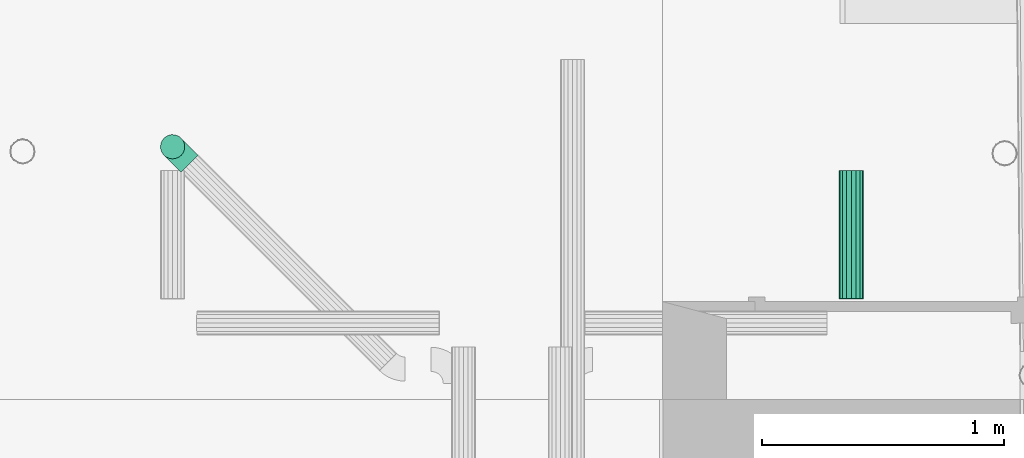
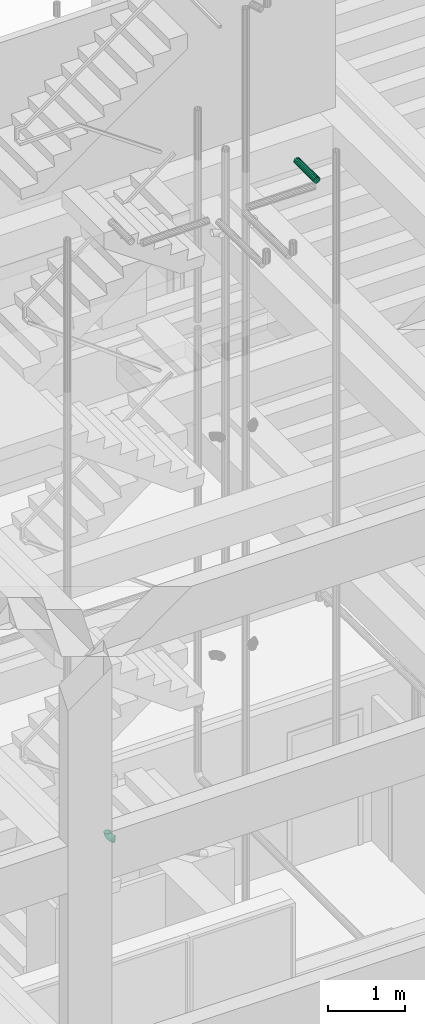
# One storey, part 74 of 106: 1 flow fitting, 1 flow segment.
"""IFC2X3 building model written with IfcOpenShell, lengths in metres."""

from ifc_helpers import new_model, entity, si_unit, converted_unit, derived_unit, money_unit, direction, frame, origin_with_axes, place, context, subcontext, project, spatial, open_shell, faceted_brep, surface_model, material, type_object, element, save


model = new_model("IFC2X3")

# Units and contexts
model_context = context("Model", 3, precision=1e-05, world=origin_with_axes(), true_north=direction((0.0, 1.0)))
body_context = subcontext(model_context, "Body", "Model", "MODEL_VIEW", scale=1.0)
ifc_project = project(units=[si_unit("LENGTHUNIT", "METRE"), si_unit("AREAUNIT", "SQUARE_METRE"), si_unit("VOLUMEUNIT", "CUBIC_METRE"), si_unit("ABSORBEDDOSEUNIT", "GRAY"), si_unit("AMOUNTOFSUBSTANCEUNIT", "MOLE"), si_unit("DOSEEQUIVALENTUNIT", "SIEVERT"), si_unit("ELECTRICCAPACITANCEUNIT", "FARAD"), si_unit("ELECTRICCHARGEUNIT", "COULOMB"), si_unit("ELECTRICCONDUCTANCEUNIT", "SIEMENS"), si_unit("ELECTRICCURRENTUNIT", "AMPERE"), si_unit("ELECTRICRESISTANCEUNIT", "OHM"), si_unit("ELECTRICVOLTAGEUNIT", "VOLT"), si_unit("ENERGYUNIT", "JOULE"), si_unit("FORCEUNIT", "NEWTON"), si_unit("FREQUENCYUNIT", "HERTZ"), si_unit("ILLUMINANCEUNIT", "LUX"), si_unit("INDUCTANCEUNIT", "HENRY"), si_unit("LUMINOUSFLUXUNIT", "LUMEN"), si_unit("LUMINOUSINTENSITYUNIT", "CANDELA"), si_unit("MAGNETICFLUXDENSITYUNIT", "TESLA"), si_unit("MAGNETICFLUXUNIT", "WEBER"), si_unit("MASSUNIT", "GRAM"), converted_unit("PLANEANGLEUNIT", "degree", entity("IfcReal", 0.0174532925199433), si_unit("PLANEANGLEUNIT", "RADIAN"), dimensions=[0, 0, 0, 0, 0, 0, 0]), si_unit("POWERUNIT", "WATT"), si_unit("PRESSUREUNIT", "PASCAL"), si_unit("RADIOACTIVITYUNIT", "BECQUEREL"), si_unit("SOLIDANGLEUNIT", "STERADIAN"), si_unit("THERMODYNAMICTEMPERATUREUNIT", "KELVIN"), si_unit("TIMEUNIT", "SECOND"), derived_unit("ACCELERATIONUNIT", [(si_unit("LENGTHUNIT", "METRE"), 1), (si_unit("TIMEUNIT", "SECOND"), -2)]), derived_unit("ANGULARVELOCITYUNIT", [(converted_unit("PLANEANGLEUNIT", "degree", entity("IfcReal", 0.0174532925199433), si_unit("PLANEANGLEUNIT", "RADIAN"), dimensions=[0, 0, 0, 0, 0, 0, 0]), 1), (si_unit("TIMEUNIT", "SECOND"), -1)]), derived_unit("CURVATUREUNIT", [(converted_unit("PLANEANGLEUNIT", "degree", entity("IfcReal", 0.0174532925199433), si_unit("PLANEANGLEUNIT", "RADIAN"), dimensions=[0, 0, 0, 0, 0, 0, 0]), 1), (si_unit("LENGTHUNIT", "METRE"), -1)]), derived_unit("DYNAMICVISCOSITYUNIT", [(si_unit("PRESSUREUNIT", "PASCAL"), 1), (si_unit("TIMEUNIT", "SECOND"), 1)]), derived_unit("HEATFLUXDENSITYUNIT", [(si_unit("POWERUNIT", "WATT"), 1), (si_unit("LENGTHUNIT", "METRE"), -2)]), derived_unit("HEATINGVALUEUNIT", [(si_unit("ENERGYUNIT", "JOULE"), 1), (si_unit("MASSUNIT", "GRAM"), -1)]), derived_unit("INTEGERCOUNTRATEUNIT", [(si_unit("TIMEUNIT", "SECOND"), -1)]), derived_unit("IONCONCENTRATIONUNIT", [(si_unit("MASSUNIT", "GRAM"), 1), (si_unit("VOLUMEUNIT", "CUBIC_METRE"), -1)]), derived_unit("ISOTHERMALMOISTURECAPACITYUNIT", [(si_unit("VOLUMEUNIT", "CUBIC_METRE"), 1), (si_unit("MASSUNIT", "GRAM"), -1)]), derived_unit("KINEMATICVISCOSITYUNIT", [(si_unit("AREAUNIT", "SQUARE_METRE"), 1), (si_unit("TIMEUNIT", "SECOND"), -1)]), derived_unit("LINEARFORCEUNIT", [(si_unit("FORCEUNIT", "NEWTON"), 1), (si_unit("LENGTHUNIT", "METRE"), -1)]), derived_unit("LINEARMOMENTUNIT", [(si_unit("FORCEUNIT", "NEWTON"), 1), (si_unit("LENGTHUNIT", "METRE"), -1)]), derived_unit("LINEARSTIFFNESSUNIT", [(si_unit("FORCEUNIT", "NEWTON"), 1), (si_unit("LENGTHUNIT", "METRE"), -1)]), derived_unit("LINEARVELOCITYUNIT", [(si_unit("LENGTHUNIT", "METRE"), 1), (si_unit("TIMEUNIT", "SECOND"), -1)]), derived_unit("LUMINOUSINTENSITYDISTRIBUTIONUNIT", [(si_unit("LUMINOUSINTENSITYUNIT", "CANDELA"), 1), (si_unit("LUMINOUSFLUXUNIT", "LUMEN"), -1)]), derived_unit("MASSDENSITYUNIT", [(si_unit("MASSUNIT", "GRAM"), 1), (si_unit("VOLUMEUNIT", "CUBIC_METRE"), -1)]), derived_unit("MASSFLOWRATEUNIT", [(si_unit("MASSUNIT", "GRAM"), 1), (si_unit("TIMEUNIT", "SECOND"), -1)]), derived_unit("MASSPERLENGTHUNIT", [(si_unit("MASSUNIT", "GRAM"), 1), (si_unit("LENGTHUNIT", "METRE"), -1)]), derived_unit("MODULUSOFELASTICITYUNIT", [(si_unit("FORCEUNIT", "NEWTON"), 1), (si_unit("AREAUNIT", "SQUARE_METRE"), -1)]), derived_unit("MODULUSOFLINEARSUBGRADEREACTIONUNIT", [(si_unit("FORCEUNIT", "NEWTON"), 1), (si_unit("LENGTHUNIT", "METRE"), -2)]), derived_unit("MODULUSOFROTATIONALSUBGRADEREACTIONUNIT", [(si_unit("FORCEUNIT", "NEWTON"), 1), (si_unit("LENGTHUNIT", "METRE"), 1)]), derived_unit("MODULUSOFSUBGRADEREACTIONUNIT", [(si_unit("FORCEUNIT", "NEWTON"), 1), (si_unit("VOLUMEUNIT", "CUBIC_METRE"), -1)]), derived_unit("MOISTUREDIFFUSIVITYUNIT", [(si_unit("VOLUMEUNIT", "CUBIC_METRE"), 1), (si_unit("TIMEUNIT", "SECOND"), -1)]), derived_unit("MOLECULARWEIGHTUNIT", [(si_unit("MASSUNIT", "GRAM"), 1), (si_unit("AMOUNTOFSUBSTANCEUNIT", "MOLE"), -1)]), derived_unit("PLANARFORCEUNIT", [(si_unit("FORCEUNIT", "NEWTON"), 1), (si_unit("LENGTHUNIT", "METRE"), -2)]), derived_unit("ROTATIONALFREQUENCYUNIT", [(si_unit("TIMEUNIT", "SECOND"), -1)]), derived_unit("ROTATIONALMASSUNIT", [(si_unit("MASSUNIT", "GRAM"), 1), (si_unit("LENGTHUNIT", "METRE"), 2)]), derived_unit("ROTATIONALSTIFFNESSUNIT", [(si_unit("FORCEUNIT", "NEWTON"), 1), (si_unit("LENGTHUNIT", "METRE"), 1), (converted_unit("PLANEANGLEUNIT", "degree", entity("IfcReal", 0.0174532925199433), si_unit("PLANEANGLEUNIT", "RADIAN"), dimensions=[0, 0, 0, 0, 0, 0, 0]), -1)]), derived_unit("SECTIONAREAINTEGRALUNIT", [(si_unit("LENGTHUNIT", "METRE"), 5)]), derived_unit("SECTIONMODULUSUNIT", [(si_unit("LENGTHUNIT", "METRE"), 3)]), derived_unit("SHEARMODULUSUNIT", [(si_unit("FORCEUNIT", "NEWTON"), 1), (si_unit("AREAUNIT", "SQUARE_METRE"), -1)]), derived_unit("SOUNDPOWERUNIT", [(si_unit("ENERGYUNIT", "JOULE"), 1), (si_unit("TIMEUNIT", "SECOND"), -1)]), derived_unit("SPECIFICHEATCAPACITYUNIT", [(si_unit("FORCEUNIT", "NEWTON"), 1), (si_unit("MASSUNIT", "GRAM"), -1), (si_unit("THERMODYNAMICTEMPERATUREUNIT", "KELVIN"), -1)]), derived_unit("TEMPERATUREGRADIENTUNIT", [(si_unit("THERMODYNAMICTEMPERATUREUNIT", "KELVIN"), 1), (si_unit("LENGTHUNIT", "METRE"), -1)]), derived_unit("THERMALADMITTANCEUNIT", [(si_unit("POWERUNIT", "WATT"), 1), (si_unit("AREAUNIT", "SQUARE_METRE"), -1), (si_unit("THERMODYNAMICTEMPERATUREUNIT", "KELVIN"), -1)]), derived_unit("THERMALCONDUCTANCEUNIT", [(si_unit("POWERUNIT", "WATT"), 1), (si_unit("LENGTHUNIT", "METRE"), -1), (si_unit("THERMODYNAMICTEMPERATUREUNIT", "KELVIN"), -1)]), derived_unit("THERMALEXPANSIONCOEFFICIENTUNIT", [(si_unit("THERMODYNAMICTEMPERATUREUNIT", "KELVIN"), -1)]), derived_unit("THERMALRESISTANCEUNIT", [(si_unit("AREAUNIT", "SQUARE_METRE"), 1), (si_unit("POWERUNIT", "WATT"), -1)]), derived_unit("THERMALTRANSMITTANCEUNIT", [(si_unit("POWERUNIT", "WATT"), 1), (si_unit("AREAUNIT", "SQUARE_METRE"), -1), (si_unit("THERMODYNAMICTEMPERATUREUNIT", "KELVIN"), -1)]), derived_unit("TORQUEUNIT", [(si_unit("FORCEUNIT", "NEWTON"), 1), (si_unit("LENGTHUNIT", "METRE"), 1)]), derived_unit("VAPORPERMEABILITYUNIT", [(si_unit("MASSUNIT", "GRAM"), 1), (si_unit("TIMEUNIT", "SECOND"), -1)]), derived_unit("VOLUMETRICFLOWRATEUNIT", [(si_unit("VOLUMEUNIT", "CUBIC_METRE"), 1), (si_unit("TIMEUNIT", "SECOND"), -1)]), derived_unit("WARPINGCONSTANTUNIT", [(si_unit("LENGTHUNIT", "METRE"), 6)]), derived_unit("WARPINGMOMENTUNIT", [(si_unit("FORCEUNIT", "NEWTON"), 1), (si_unit("LENGTHUNIT", "METRE"), 2)]), money_unit("GBP")], contexts=[model_context])

# Site, building, storey
site_placement = place(None, origin_with_axes())
site = spatial("IfcSite", under=ifc_project, at=site_placement, Name="Site", CompositionType="ELEMENT")
building_placement = place(site_placement, origin_with_axes())
building = spatial("IfcBuilding", under=site, at=building_placement, Name="Building01", CompositionType="ELEMENT")
storey_placement = place(building_placement, origin_with_axes())
storey = spatial("IfcBuildingStorey", under=building, at=storey_placement, Name="GF", CompositionType="ELEMENT", Elevation=0.0)

# Flow segment
ifc_material = material(Name="M_BSUK_ColdWater")
pipe_segment_type = type_object("IfcPipeSegmentType", Name="M-BmpStraightpipe-DefaultPipe", PredefinedType="RIGIDSEGMENT")
flow_segment_placement = place(storey_placement, frame((14.9, 4.239405, 14.607338), z_axis=(0.0, -0.01249902, -0.99992188), x_axis=(0.0, 0.99992188, -0.01249902)))
element("IfcFlowSegment", 1, at=flow_segment_placement, inside=storey, type_object=pipe_segment_type, material=ifc_material, Name="M-BmpStraightpipe-DefaultPipe", ObjectType="M-BmpStraightpipe-DefaultPipe", context=body_context, shape_type="Brep", body=[
    faceted_brep([(0.528362, 0.0, -0.05), (0.0, 0.0, -0.05), (0.0, 0.019134, -0.046194), (0.528362, 0.019134, -0.046194), (0.0, 0.035355, -0.035355), (0.528362, 0.035355, -0.035355), (0.0, 0.046194, -0.019134), (0.528362, 0.046194, -0.019134), (0.0, 0.05, 0.0), (0.528362, 0.05, 0.0), (0.0, 0.046194, 0.019134), (0.528362, 0.046194, 0.019134), (0.0, 0.035355, 0.035355), (0.528362, 0.035355, 0.035355), (0.0, 0.019134, 0.046194), (0.528362, 0.019134, 0.046194), (0.0, 0.0, 0.05), (0.528362, 0.0, 0.05), (0.0, -0.019134, 0.046194), (0.528362, -0.019134, 0.046194), (0.0, -0.035355, 0.035355), (0.528362, -0.035355, 0.035355), (0.0, -0.046194, 0.019134), (0.528362, -0.046194, 0.019134), (0.0, -0.05, 0.0), (0.528362, -0.05, 0.0), (0.0, -0.046194, -0.019134), (0.528362, -0.046194, -0.019134), (0.0, -0.035355, -0.035355), (0.528362, -0.035355, -0.035355), (0.0, -0.019134, -0.046194), (0.528362, -0.019134, -0.046194)], [[[0, 1, 2, 3]], [[3, 2, 4, 5]], [[5, 4, 6, 7]], [[7, 6, 8, 9]], [[9, 8, 10, 11]], [[11, 10, 12, 13]], [[13, 12, 14, 15]], [[15, 14, 16, 17]], [[17, 16, 18, 19]], [[19, 18, 20, 21]], [[21, 20, 22, 23]], [[23, 22, 24, 25]], [[25, 24, 26, 27]], [[27, 26, 28, 29]], [[29, 28, 30, 31]], [[31, 30, 1, 0]]]),
])

# Flow fitting
pipe_fitting_type = type_object("IfcPipeFittingType", Name="M-BmpElbow-DefaultElbow", PredefinedType="BEND")
flow_fitting_placement = place(storey_placement, frame((12.1, 4.866475, 4.814819), z_axis=(-0.70710678, 0.70710678, 0.0), x_axis=(0.0, 0.0, -1.0)))
element("IfcFlowFitting", 2, at=flow_fitting_placement, inside=storey, type_object=pipe_fitting_type, material=ifc_material, Name="M-BmpElbow-DefaultElbow", ObjectType="M-BmpElbow-DefaultElbow", context=body_context, shape_type="SurfaceModel", body=[
    surface_model("IfcShellBasedSurfaceModel", [(0.008048, -0.01349, -0.048774), (0.0, -0.01349, -0.048146), (0.0, 0.0, -0.05), (0.00776, 0.0, -0.050606), (0.0159, -0.01349, -0.050644), (0.015332, 0.0, -0.052409), (0.023368, -0.01349, -0.05371), (0.022532, 0.0, -0.055365), (0.030269, -0.01349, -0.057897), (0.029187, 0.0, -0.059403), (0.036437, -0.01349, -0.063105), (0.035134, 0.0, -0.064424), (0.041721, -0.01349, -0.069207), (0.040229, 0.0, -0.070308), (0.045995, -0.01349, -0.076055), (0.04435, 0.0, -0.076912), (0.049154, -0.01349, -0.083484), (0.047396, 0.0, -0.084074), (0.051121, -0.01349, -0.091313), (0.049293, 0.0, -0.091623), (0.05185, -0.01349, -0.099352), (0.049996, 0.0, -0.099375), (0.00889, -0.025979, -0.043415), (0.0, -0.025979, -0.042721), (0.017564, -0.025979, -0.04548), (0.025813, -0.025979, -0.048867), (0.033436, -0.025979, -0.053493), (0.040248, -0.025979, -0.059245), (0.046086, -0.025979, -0.065986), (0.050807, -0.025979, -0.07355), (0.054296, -0.025979, -0.081756), (0.056469, -0.025979, -0.090404), (0.057275, -0.025979, -0.099284), (0.010223, -0.036542, -0.034926), (0.0, -0.036542, -0.034128), (0.020199, -0.036542, -0.037301), (0.029685, -0.036542, -0.041196), (0.038452, -0.036542, -0.046515), (0.046287, -0.036542, -0.053131), (0.053, -0.036542, -0.060883), (0.058429, -0.036542, -0.069582), (0.062442, -0.036542, -0.079019), (0.064941, -0.036542, -0.088964), (0.065867, -0.036542, -0.099177), (0.01195, -0.044394, -0.023936), (0.0, -0.044394, -0.023003), (0.02361, -0.044394, -0.026712), (0.034698, -0.044394, -0.031265), (0.044946, -0.044394, -0.037483), (0.054104, -0.044394, -0.045216), (0.061951, -0.044394, -0.054277), (0.068296, -0.044394, -0.064445), (0.072987, -0.044394, -0.075476), (0.075908, -0.044394, -0.0871), (0.076991, -0.044394, -0.099038), (0.013941, -0.048954, -0.011261), (0.0, -0.048954, -0.010173), (0.027544, -0.048954, -0.0145), (0.04048, -0.048954, -0.019811), (0.052435, -0.048954, -0.027065), (0.063119, -0.048954, -0.036087), (0.072274, -0.048954, -0.046657), (0.079677, -0.048954, -0.058521), (0.085149, -0.048954, -0.071389), (0.088558, -0.048954, -0.084951), (0.08982, -0.048954, -0.098877), (0.01605, -0.049883, 0.002159), (0.0, -0.049883, 0.003412), (0.03171, -0.049883, -0.00157), (0.046602, -0.049883, -0.007684), (0.060365, -0.049883, -0.016035), (0.072665, -0.049883, -0.026421), (0.083204, -0.049883, -0.03859), (0.091727, -0.049883, -0.052247), (0.098026, -0.049883, -0.067062), (0.101951, -0.049883, -0.082675), (0.103404, -0.049883, -0.098707), (0.018119, -0.047113, 0.015329), (0.0, -0.047113, 0.016744), (0.035798, -0.047113, 0.01112), (0.05261, -0.047113, 0.004218), (0.068147, -0.047113, -0.00521), (0.082033, -0.047113, -0.016935), (0.093931, -0.047113, -0.030673), (0.103552, -0.047113, -0.046091), (0.110664, -0.047113, -0.062816), (0.115094, -0.047113, -0.080441), (0.116735, -0.047113, -0.098541), (0.019995, -0.040848, 0.027273), (0.0, -0.040848, 0.028834), (0.039505, -0.040848, 0.022628), (0.058059, -0.040848, 0.01501), (0.075205, -0.040848, 0.004606), (0.090528, -0.040848, -0.008333), (0.103658, -0.040848, -0.023494), (0.114276, -0.040848, -0.040508), (0.122124, -0.040848, -0.058965), (0.127013, -0.040848, -0.078416), (0.128824, -0.040848, -0.09839), (0.021539, -0.031554, 0.037104), (0.0, -0.031554, 0.038786), (0.042557, -0.031554, 0.0321), (0.062543, -0.031554, 0.023894), (0.081014, -0.031554, 0.012686), (0.097521, -0.031554, -0.001252), (0.111665, -0.031554, -0.017584), (0.123103, -0.031554, -0.035913), (0.131557, -0.031554, -0.055795), (0.136824, -0.031554, -0.076749), (0.138775, -0.031554, -0.098265), (0.022638, -0.01992, 0.044093), (0.0, -0.01992, 0.045861), (0.044726, -0.01992, 0.038834), (0.065732, -0.01992, 0.03021), (0.085144, -0.01992, 0.018431), (0.102492, -0.01992, 0.003782), (0.117357, -0.01992, -0.013383), (0.129378, -0.01992, -0.032646), (0.138264, -0.01992, -0.053542), (0.143799, -0.01992, -0.075563), (0.145849, -0.01992, -0.098177), (0.023208, -0.006808, 0.047722), (0.0, -0.006808, 0.049534), (0.045853, -0.006808, 0.042331), (0.067387, -0.006808, 0.03349), (0.087288, -0.006808, 0.021414), (0.105074, -0.006808, 0.006395), (0.120313, -0.006808, -0.011201), (0.132637, -0.006808, -0.03095), (0.141746, -0.006808, -0.052372), (0.147421, -0.006808, -0.074948), (0.149523, -0.006808, -0.098131), (0.023208, 0.006808, 0.047722), (0.0, 0.006808, 0.049534), (0.045853, 0.006808, 0.042331), (0.067387, 0.006808, 0.03349), (0.087288, 0.006808, 0.021414), (0.105074, 0.006808, 0.006395), (0.120313, 0.006808, -0.011201), (0.132637, 0.006808, -0.03095), (0.141746, 0.006808, -0.052372), (0.147421, 0.006808, -0.074948), (0.149523, 0.006808, -0.098131), (0.022638, 0.01992, 0.044093), (0.0, 0.01992, 0.045861), (0.044726, 0.01992, 0.038834), (0.065732, 0.01992, 0.03021), (0.085144, 0.01992, 0.018431), (0.102492, 0.01992, 0.003782), (0.117357, 0.01992, -0.013383), (0.129378, 0.01992, -0.032646), (0.138264, 0.01992, -0.053542), (0.143799, 0.01992, -0.075563), (0.145849, 0.01992, -0.098177), (0.021539, 0.031554, 0.037104), (0.0, 0.031554, 0.038786), (0.042557, 0.031554, 0.0321), (0.062543, 0.031554, 0.023894), (0.081014, 0.031554, 0.012686), (0.097521, 0.031554, -0.001252), (0.111665, 0.031554, -0.017584), (0.123103, 0.031554, -0.035913), (0.131557, 0.031554, -0.055795), (0.136824, 0.031554, -0.076749), (0.138775, 0.031554, -0.098265), (0.019995, 0.040848, 0.027273), (0.0, 0.040848, 0.028834), (0.039505, 0.040848, 0.022628), (0.058059, 0.040848, 0.01501), (0.075205, 0.040848, 0.004606), (0.090528, 0.040848, -0.008333), (0.103658, 0.040848, -0.023494), (0.114276, 0.040848, -0.040508), (0.122124, 0.040848, -0.058965), (0.127013, 0.040848, -0.078416), (0.128824, 0.040848, -0.09839), (0.018119, 0.047113, 0.015329), (0.0, 0.047113, 0.016744), (0.035798, 0.047113, 0.01112), (0.05261, 0.047113, 0.004218), (0.068147, 0.047113, -0.00521), (0.082033, 0.047113, -0.016935), (0.093931, 0.047113, -0.030673), (0.103552, 0.047113, -0.046091), (0.110664, 0.047113, -0.062816), (0.115094, 0.047113, -0.080441), (0.116735, 0.047113, -0.098541), (0.01605, 0.049883, 0.002159), (0.0, 0.049883, 0.003412), (0.03171, 0.049883, -0.00157), (0.046602, 0.049883, -0.007684), (0.060365, 0.049883, -0.016035), (0.072665, 0.049883, -0.026421), (0.083204, 0.049883, -0.03859), (0.091727, 0.049883, -0.052247), (0.098026, 0.049883, -0.067062), (0.101951, 0.049883, -0.082675), (0.103404, 0.049883, -0.098707), (0.013941, 0.048954, -0.011261), (0.0, 0.048954, -0.010173), (0.027544, 0.048954, -0.0145), (0.04048, 0.048954, -0.019811), (0.052435, 0.048954, -0.027065), (0.063119, 0.048954, -0.036087), (0.072274, 0.048954, -0.046657), (0.079677, 0.048954, -0.058521), (0.085149, 0.048954, -0.071389), (0.088558, 0.048954, -0.084951), (0.08982, 0.048954, -0.098877), (0.01195, 0.044394, -0.023936), (0.0, 0.044394, -0.023003), (0.02361, 0.044394, -0.026712), (0.034698, 0.044394, -0.031265), (0.044946, 0.044394, -0.037483), (0.054104, 0.044394, -0.045216), (0.061951, 0.044394, -0.054277), (0.068296, 0.044394, -0.064445), (0.072987, 0.044394, -0.075476), (0.075908, 0.044394, -0.0871), (0.076991, 0.044394, -0.099038), (0.010223, 0.036542, -0.034926), (0.0, 0.036542, -0.034128), (0.020199, 0.036542, -0.037301), (0.029685, 0.036542, -0.041196), (0.038452, 0.036542, -0.046515), (0.046287, 0.036542, -0.053131), (0.053, 0.036542, -0.060883), (0.058429, 0.036542, -0.069582), (0.062442, 0.036542, -0.079019), (0.064941, 0.036542, -0.088964), (0.065867, 0.036542, -0.099177), (0.00889, 0.025979, -0.043415), (0.0, 0.025979, -0.042721), (0.017564, 0.025979, -0.04548), (0.025813, 0.025979, -0.048867), (0.033436, 0.025979, -0.053493), (0.040248, 0.025979, -0.059245), (0.046086, 0.025979, -0.065986), (0.050807, 0.025979, -0.07355), (0.054296, 0.025979, -0.081756), (0.056469, 0.025979, -0.090404), (0.057275, 0.025979, -0.099284), (0.008048, 0.01349, -0.048774), (0.0, 0.01349, -0.048146), (0.0159, 0.01349, -0.050644), (0.023368, 0.01349, -0.05371), (0.030269, 0.01349, -0.057897), (0.036437, 0.01349, -0.063105), (0.041721, 0.01349, -0.069207), (0.045995, 0.01349, -0.076055), (0.049154, 0.01349, -0.083484), (0.051121, 0.01349, -0.091313), (0.05185, 0.01349, -0.099352)], [open_shell([[[0, 1, 2, 3]], [[4, 0, 3, 5]], [[6, 4, 5, 7]], [[8, 6, 7, 9]], [[10, 8, 9, 11]], [[12, 10, 11, 13]], [[14, 12, 13, 15]], [[16, 14, 15, 17]], [[18, 16, 17, 19]], [[20, 18, 19, 21]], [[22, 23, 1, 0]], [[24, 22, 0, 4]], [[25, 24, 4, 6]], [[26, 25, 6, 8]], [[27, 26, 8, 10]], [[28, 27, 10, 12]], [[29, 28, 12, 14]], [[30, 29, 14, 16]], [[31, 30, 16, 18]], [[32, 31, 18, 20]], [[33, 34, 23, 22]], [[35, 33, 22, 24]], [[36, 35, 24, 25]], [[37, 36, 25, 26]], [[38, 37, 26, 27]], [[39, 38, 27, 28]], [[40, 39, 28, 29]], [[41, 40, 29, 30]], [[42, 41, 30, 31]], [[43, 42, 31, 32]], [[44, 45, 34, 33]], [[46, 44, 33, 35]], [[47, 46, 35, 36]], [[48, 47, 36, 37]], [[49, 48, 37, 38]], [[50, 49, 38, 39]], [[51, 50, 39, 40]], [[52, 51, 40, 41]], [[53, 52, 41, 42]], [[54, 53, 42, 43]], [[55, 56, 45, 44]], [[57, 55, 44, 46]], [[58, 57, 46, 47]], [[59, 58, 47, 48]], [[60, 59, 48, 49]], [[61, 60, 49, 50]], [[62, 61, 50, 51]], [[63, 62, 51, 52]], [[64, 63, 52, 53]], [[65, 64, 53, 54]], [[66, 67, 56, 55]], [[68, 66, 55, 57]], [[69, 68, 57, 58]], [[70, 69, 58, 59]], [[71, 70, 59, 60]], [[72, 71, 60, 61]], [[73, 72, 61, 62]], [[74, 73, 62, 63]], [[75, 74, 63, 64]], [[76, 75, 64, 65]], [[77, 78, 67, 66]], [[79, 77, 66, 68]], [[80, 79, 68, 69]], [[81, 80, 69, 70]], [[82, 81, 70, 71]], [[83, 82, 71, 72]], [[84, 83, 72, 73]], [[85, 84, 73, 74]], [[86, 85, 74, 75]], [[87, 86, 75, 76]], [[88, 89, 78, 77]], [[90, 88, 77, 79]], [[91, 90, 79, 80]], [[92, 91, 80, 81]], [[93, 92, 81, 82]], [[94, 93, 82, 83]], [[95, 94, 83, 84]], [[96, 95, 84, 85]], [[97, 96, 85, 86]], [[98, 97, 86, 87]], [[99, 100, 89, 88]], [[101, 99, 88, 90]], [[102, 101, 90, 91]], [[103, 102, 91, 92]], [[104, 103, 92, 93]], [[105, 104, 93, 94]], [[106, 105, 94, 95]], [[107, 106, 95, 96]], [[108, 107, 96, 97]], [[109, 108, 97, 98]], [[110, 111, 100, 99]], [[112, 110, 99, 101]], [[113, 112, 101, 102]], [[114, 113, 102, 103]], [[115, 114, 103, 104]], [[116, 115, 104, 105]], [[117, 116, 105, 106]], [[118, 117, 106, 107]], [[119, 118, 107, 108]], [[120, 119, 108, 109]], [[121, 122, 111, 110]], [[123, 121, 110, 112]], [[124, 123, 112, 113]], [[125, 124, 113, 114]], [[126, 125, 114, 115]], [[127, 126, 115, 116]], [[128, 127, 116, 117]], [[129, 128, 117, 118]], [[130, 129, 118, 119]], [[131, 130, 119, 120]], [[132, 133, 122, 121]], [[134, 132, 121, 123]], [[135, 134, 123, 124]], [[136, 135, 124, 125]], [[137, 136, 125, 126]], [[138, 137, 126, 127]], [[139, 138, 127, 128]], [[140, 139, 128, 129]], [[141, 140, 129, 130]], [[142, 141, 130, 131]], [[143, 144, 133, 132]], [[145, 143, 132, 134]], [[146, 145, 134, 135]], [[147, 146, 135, 136]], [[148, 147, 136, 137]], [[149, 148, 137, 138]], [[150, 149, 138, 139]], [[151, 150, 139, 140]], [[152, 151, 140, 141]], [[153, 152, 141, 142]], [[154, 155, 144, 143]], [[156, 154, 143, 145]], [[157, 156, 145, 146]], [[158, 157, 146, 147]], [[159, 158, 147, 148]], [[160, 159, 148, 149]], [[161, 160, 149, 150]], [[162, 161, 150, 151]], [[163, 162, 151, 152]], [[164, 163, 152, 153]], [[165, 166, 155, 154]], [[167, 165, 154, 156]], [[168, 167, 156, 157]], [[169, 168, 157, 158]], [[170, 169, 158, 159]], [[171, 170, 159, 160]], [[172, 171, 160, 161]], [[173, 172, 161, 162]], [[174, 173, 162, 163]], [[175, 174, 163, 164]], [[176, 177, 166, 165]], [[178, 176, 165, 167]], [[179, 178, 167, 168]], [[180, 179, 168, 169]], [[181, 180, 169, 170]], [[182, 181, 170, 171]], [[183, 182, 171, 172]], [[184, 183, 172, 173]], [[185, 184, 173, 174]], [[186, 185, 174, 175]], [[187, 188, 177, 176]], [[189, 187, 176, 178]], [[190, 189, 178, 179]], [[191, 190, 179, 180]], [[192, 191, 180, 181]], [[193, 192, 181, 182]], [[194, 193, 182, 183]], [[195, 194, 183, 184]], [[196, 195, 184, 185]], [[197, 196, 185, 186]], [[198, 199, 188, 187]], [[200, 198, 187, 189]], [[201, 200, 189, 190]], [[202, 201, 190, 191]], [[203, 202, 191, 192]], [[204, 203, 192, 193]], [[205, 204, 193, 194]], [[206, 205, 194, 195]], [[207, 206, 195, 196]], [[208, 207, 196, 197]], [[209, 210, 199, 198]], [[211, 209, 198, 200]], [[212, 211, 200, 201]], [[213, 212, 201, 202]], [[214, 213, 202, 203]], [[215, 214, 203, 204]], [[216, 215, 204, 205]], [[217, 216, 205, 206]], [[218, 217, 206, 207]], [[219, 218, 207, 208]], [[220, 221, 210, 209]], [[222, 220, 209, 211]], [[223, 222, 211, 212]], [[224, 223, 212, 213]], [[225, 224, 213, 214]], [[226, 225, 214, 215]], [[227, 226, 215, 216]], [[228, 227, 216, 217]], [[229, 228, 217, 218]], [[230, 229, 218, 219]], [[231, 232, 221, 220]], [[233, 231, 220, 222]], [[234, 233, 222, 223]], [[235, 234, 223, 224]], [[236, 235, 224, 225]], [[237, 236, 225, 226]], [[238, 237, 226, 227]], [[239, 238, 227, 228]], [[240, 239, 228, 229]], [[241, 240, 229, 230]], [[242, 243, 232, 231]], [[244, 242, 231, 233]], [[245, 244, 233, 234]], [[246, 245, 234, 235]], [[247, 246, 235, 236]], [[248, 247, 236, 237]], [[249, 248, 237, 238]], [[250, 249, 238, 239]], [[251, 250, 239, 240]], [[252, 251, 240, 241]], [[3, 2, 243, 242]], [[5, 3, 242, 244]], [[7, 5, 244, 245]], [[9, 7, 245, 246]], [[11, 9, 246, 247]], [[13, 11, 247, 248]], [[15, 13, 248, 249]], [[17, 15, 249, 250]], [[19, 17, 250, 251]], [[21, 19, 251, 252]]])]),
])

save(model, "model.ifc")
